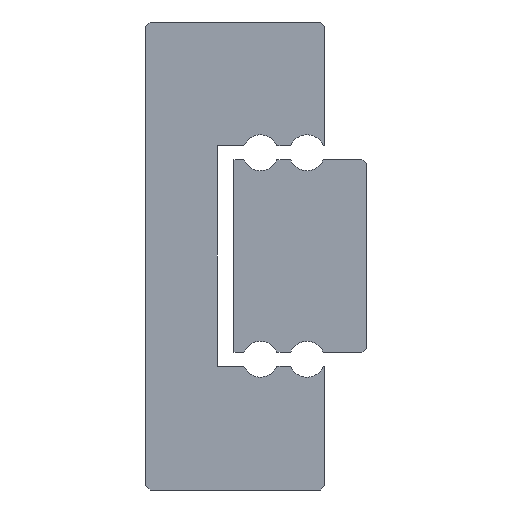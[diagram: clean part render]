
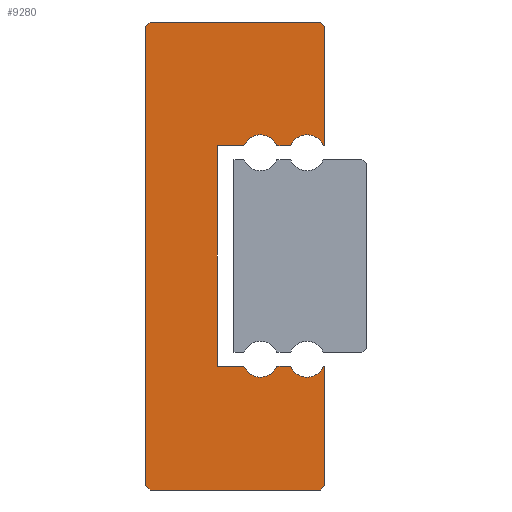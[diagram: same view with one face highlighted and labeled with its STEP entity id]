
A CAD part, left-side view. The second image highlights one B-rep face of the part: STEP entity #9280.
In plain terms, the highlighted planar face has unit normal (-1, 0, 0).
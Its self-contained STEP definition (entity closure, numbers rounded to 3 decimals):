
#302=CIRCLE('',#10080,0.65);
#304=CIRCLE('',#10084,0.65);
#306=CIRCLE('',#10090,0.65);
#308=CIRCLE('',#10094,0.65);
#1556=ORIENTED_EDGE('',*,*,#3894,.F.);
#1557=ORIENTED_EDGE('',*,*,#4338,.F.);
#1558=ORIENTED_EDGE('',*,*,#4335,.F.);
#1559=ORIENTED_EDGE('',*,*,#4328,.F.);
#1560=ORIENTED_EDGE('',*,*,#4325,.F.);
#1561=ORIENTED_EDGE('',*,*,#4322,.F.);
#1562=ORIENTED_EDGE('',*,*,#4319,.F.);
#1563=ORIENTED_EDGE('',*,*,#4316,.F.);
#1564=ORIENTED_EDGE('',*,*,#4313,.T.);
#1565=ORIENTED_EDGE('',*,*,#4310,.F.);
#1566=ORIENTED_EDGE('',*,*,#4307,.T.);
#1567=ORIENTED_EDGE('',*,*,#4304,.F.);
#1568=ORIENTED_EDGE('',*,*,#4301,.F.);
#1569=ORIENTED_EDGE('',*,*,#4298,.F.);
#1570=ORIENTED_EDGE('',*,*,#4295,.T.);
#1571=ORIENTED_EDGE('',*,*,#4292,.F.);
#1572=ORIENTED_EDGE('',*,*,#4289,.T.);
#1573=ORIENTED_EDGE('',*,*,#4286,.F.);
#1574=ORIENTED_EDGE('',*,*,#4283,.F.);
#1575=ORIENTED_EDGE('',*,*,#4280,.F.);
#3894=EDGE_CURVE('',#5318,#5319,#6280,.T.);
#4280=EDGE_CURVE('',#5319,#5704,#6418,.T.);
#4283=EDGE_CURVE('',#5704,#5706,#6421,.T.);
#4286=EDGE_CURVE('',#5706,#5708,#6424,.T.);
#4289=EDGE_CURVE('',#5710,#5708,#302,.T.);
#4292=EDGE_CURVE('',#5710,#5712,#6428,.T.);
#4295=EDGE_CURVE('',#5714,#5712,#304,.T.);
#4298=EDGE_CURVE('',#5714,#5716,#6432,.T.);
#4301=EDGE_CURVE('',#5716,#5718,#6435,.T.);
#4304=EDGE_CURVE('',#5718,#5720,#6438,.T.);
#4307=EDGE_CURVE('',#5722,#5720,#306,.T.);
#4310=EDGE_CURVE('',#5722,#5724,#6442,.T.);
#4313=EDGE_CURVE('',#5726,#5724,#308,.T.);
#4316=EDGE_CURVE('',#5726,#5728,#6446,.T.);
#4319=EDGE_CURVE('',#5728,#5730,#6449,.T.);
#4322=EDGE_CURVE('',#5730,#5732,#6452,.T.);
#4325=EDGE_CURVE('',#5732,#5734,#6455,.T.);
#4328=EDGE_CURVE('',#5734,#5736,#6458,.T.);
#4335=EDGE_CURVE('',#5736,#5742,#6461,.T.);
#4338=EDGE_CURVE('',#5742,#5318,#6464,.T.);
#5318=VERTEX_POINT('',#14161);
#5319=VERTEX_POINT('',#14162);
#5704=VERTEX_POINT('',#14934);
#5706=VERTEX_POINT('',#14940);
#5708=VERTEX_POINT('',#14946);
#5710=VERTEX_POINT('',#14952);
#5712=VERTEX_POINT('',#14958);
#5714=VERTEX_POINT('',#14964);
#5716=VERTEX_POINT('',#14970);
#5718=VERTEX_POINT('',#14976);
#5720=VERTEX_POINT('',#14982);
#5722=VERTEX_POINT('',#14988);
#5724=VERTEX_POINT('',#14994);
#5726=VERTEX_POINT('',#15000);
#5728=VERTEX_POINT('',#15006);
#5730=VERTEX_POINT('',#15012);
#5732=VERTEX_POINT('',#15018);
#5734=VERTEX_POINT('',#15024);
#5736=VERTEX_POINT('',#15030);
#5742=VERTEX_POINT('',#15044);
#6280=LINE('',#14160,#7096);
#6418=LINE('',#14933,#7234);
#6421=LINE('',#14939,#7237);
#6424=LINE('',#14945,#7240);
#6428=LINE('',#14957,#7244);
#6432=LINE('',#14969,#7248);
#6435=LINE('',#14975,#7251);
#6438=LINE('',#14981,#7254);
#6442=LINE('',#14993,#7258);
#6446=LINE('',#15005,#7262);
#6449=LINE('',#15011,#7265);
#6452=LINE('',#15017,#7268);
#6455=LINE('',#15023,#7271);
#6458=LINE('',#15029,#7274);
#6461=LINE('',#15043,#7277);
#6464=LINE('',#15049,#7280);
#7096=VECTOR('',#11055,1000.);
#7234=VECTOR('',#11691,1000.);
#7237=VECTOR('',#11696,1000.);
#7240=VECTOR('',#11701,1000.);
#7244=VECTOR('',#11713,1000.);
#7248=VECTOR('',#11725,1000.);
#7251=VECTOR('',#11730,1000.);
#7254=VECTOR('',#11735,1000.);
#7258=VECTOR('',#11747,1000.);
#7262=VECTOR('',#11759,1000.);
#7265=VECTOR('',#11764,1000.);
#7268=VECTOR('',#11769,1000.);
#7271=VECTOR('',#11774,1000.);
#7274=VECTOR('',#11779,1000.);
#7277=VECTOR('',#11792,1000.);
#7280=VECTOR('',#11797,1000.);
#7960=EDGE_LOOP('',(#1556,#1557,#1558,#1559,#1560,#1561,#1562,#1563,#1564,
#1565,#1566,#1567,#1568,#1569,#1570,#1571,#1572,#1573,#1574,#1575));
#8534=FACE_BOUND('',#7960,.T.);
#9057=PLANE('',#10108);
#9280=ADVANCED_FACE('',(#8534),#9057,.F.);
#10080=AXIS2_PLACEMENT_3D('',#14951,#11706,#11707);
#10084=AXIS2_PLACEMENT_3D('',#14963,#11718,#11719);
#10090=AXIS2_PLACEMENT_3D('',#14987,#11740,#11741);
#10094=AXIS2_PLACEMENT_3D('',#14999,#11752,#11753);
#10108=AXIS2_PLACEMENT_3D('',#15052,#11801,#11802);
#11055=DIRECTION('',(0.,-1.,0.));
#11691=DIRECTION('',(0.,-0.707,-0.707));
#11696=DIRECTION('',(0.,0.,-1.));
#11701=DIRECTION('',(0.,1.,0.));
#11706=DIRECTION('',(1.,0.,0.));
#11707=DIRECTION('',(0.,0.,-1.));
#11713=DIRECTION('',(0.,1.,0.));
#11718=DIRECTION('',(1.,0.,0.));
#11719=DIRECTION('',(0.,0.,-1.));
#11725=DIRECTION('',(0.,1.,0.));
#11730=DIRECTION('',(0.,0.,-1.));
#11735=DIRECTION('',(0.,-1.,0.));
#11740=DIRECTION('',(1.,0.,0.));
#11741=DIRECTION('',(0.,0.,-1.));
#11747=DIRECTION('',(0.,-1.,0.));
#11752=DIRECTION('',(1.,0.,0.));
#11753=DIRECTION('',(0.,0.,-1.));
#11759=DIRECTION('',(0.,-1.,0.));
#11764=DIRECTION('',(0.,0.,-1.));
#11769=DIRECTION('',(0.,0.707,-0.707));
#11774=DIRECTION('',(0.,1.,0.));
#11779=DIRECTION('',(0.,0.707,0.707));
#11792=DIRECTION('',(0.,0.,1.));
#11797=DIRECTION('',(0.,-0.707,0.707));
#11801=DIRECTION('',(1.,0.,0.));
#11802=DIRECTION('',(0.,0.,-1.));
#14160=CARTESIAN_POINT('',(-15.,6.35,8.5));
#14161=CARTESIAN_POINT('',(-15.,6.35,8.5));
#14162=CARTESIAN_POINT('',(-15.,0.15,8.5));
#14933=CARTESIAN_POINT('',(-15.,0.15,8.5));
#14934=CARTESIAN_POINT('',(-15.,0.,8.35));
#14939=CARTESIAN_POINT('',(-15.,0.,8.35));
#14940=CARTESIAN_POINT('',(-15.,0.,4.));
#14945=CARTESIAN_POINT('',(-15.,0.,4.));
#14946=CARTESIAN_POINT('',(-15.,0.05,4.));
#14951=CARTESIAN_POINT('',(-15.,0.65,3.75));
#14952=CARTESIAN_POINT('',(-15.,1.25,4.));
#14957=CARTESIAN_POINT('',(-15.,1.25,4.));
#14958=CARTESIAN_POINT('',(-15.,1.74,4.));
#14963=CARTESIAN_POINT('',(-15.,2.34,3.75));
#14964=CARTESIAN_POINT('',(-15.,2.94,4.));
#14969=CARTESIAN_POINT('',(-15.,2.94,4.));
#14970=CARTESIAN_POINT('',(-15.,3.9,4.));
#14975=CARTESIAN_POINT('',(-15.,3.9,4.));
#14976=CARTESIAN_POINT('',(-15.,3.9,-4.));
#14981=CARTESIAN_POINT('',(-15.,3.9,-4.));
#14982=CARTESIAN_POINT('',(-15.,2.94,-4.));
#14987=CARTESIAN_POINT('',(-15.,2.34,-3.75));
#14988=CARTESIAN_POINT('',(-15.,1.74,-4.));
#14993=CARTESIAN_POINT('',(-15.,1.74,-4.));
#14994=CARTESIAN_POINT('',(-15.,1.25,-4.));
#14999=CARTESIAN_POINT('',(-15.,0.65,-3.75));
#15000=CARTESIAN_POINT('',(-15.,0.05,-4.));
#15005=CARTESIAN_POINT('',(-15.,0.05,-4.));
#15006=CARTESIAN_POINT('',(-15.,0.,-4.));
#15011=CARTESIAN_POINT('',(-15.,0.,-4.));
#15012=CARTESIAN_POINT('',(-15.,0.,-8.35));
#15017=CARTESIAN_POINT('',(-15.,0.,-8.35));
#15018=CARTESIAN_POINT('',(-15.,0.15,-8.5));
#15023=CARTESIAN_POINT('',(-15.,0.15,-8.5));
#15024=CARTESIAN_POINT('',(-15.,6.35,-8.5));
#15029=CARTESIAN_POINT('',(-15.,6.35,-8.5));
#15030=CARTESIAN_POINT('',(-15.,6.5,-8.35));
#15043=CARTESIAN_POINT('',(-15.,6.5,-8.35));
#15044=CARTESIAN_POINT('',(-15.,6.5,8.35));
#15049=CARTESIAN_POINT('',(-15.,6.5,8.35));
#15052=CARTESIAN_POINT('',(-15.,0.65,3.75));
